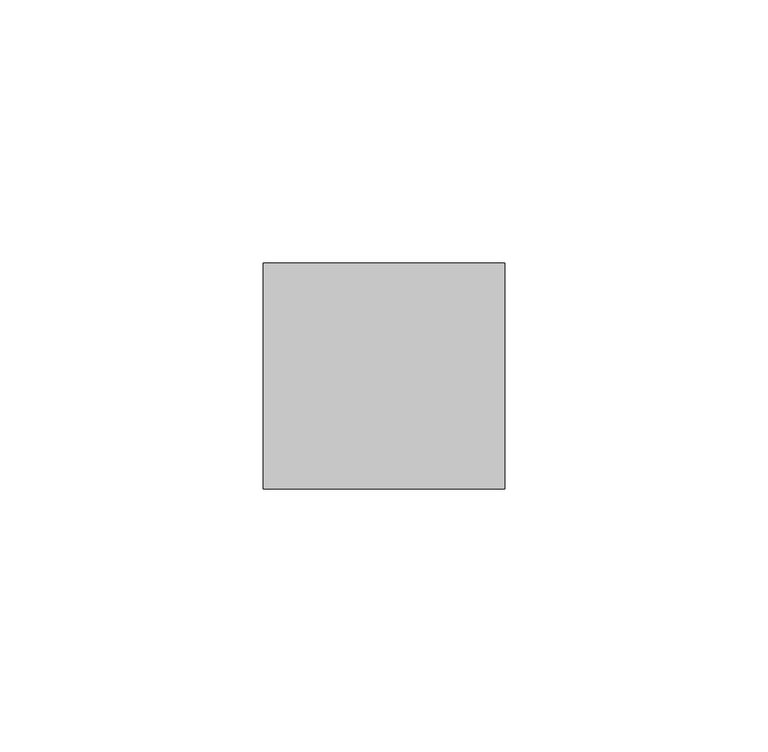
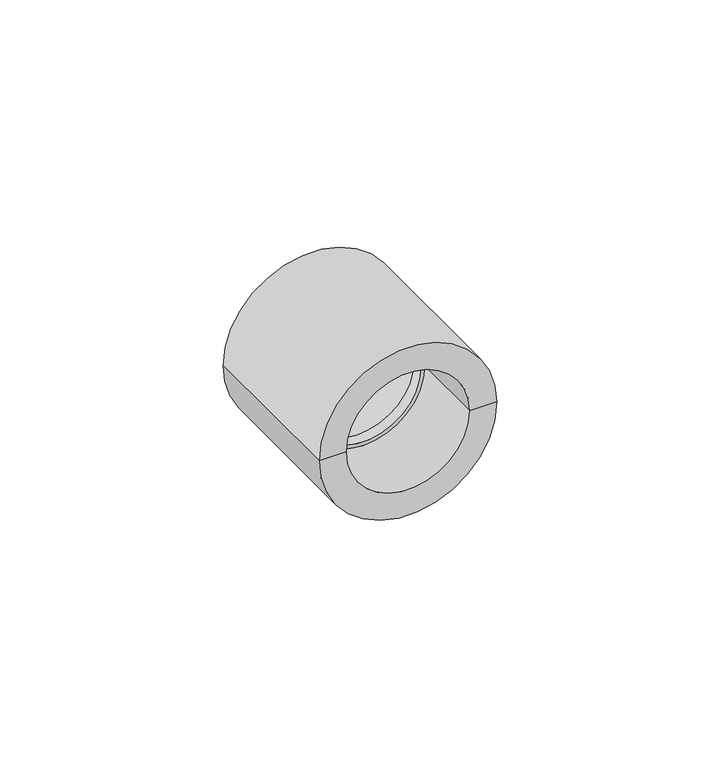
"""IFC4 building model written with IfcOpenShell, lengths in millimetres: pipe fitting geometry, NIRON RED termofusion manguito : Estándar."""

from ifc_helpers import new_model, si_unit, frame, origin, place, context, project, spatial, polyline, circle_curve, source, transform, mapped, element, save
from ifc_brep_helpers import plane_surface, cylinder_surface, revolved_surface, advanced_brep


def pipe_fitting_6d547501(model_context):
    return source(origin(), model_context, "Body", "AdvancedBrep", [
        advanced_brep(
        [(23.0, 43.0, 0.0), (-23.0, 43.0, 0.0), (-16.0, 43.0, 0.0), (16.0, 43.0, 0.0), (23.0, 0.0, 0.0), (-23.0, 0.0, 0.0), (16.0, 0.0, 0.0), (-16.0, 0.0, 0.0), (16.0, 20.0, 0.0), (-16.0, 20.0, 0.0), (15.0, 20.0, 0.0), (-15.0, 20.0, 0.0), (15.0, 23.0, 0.0), (-15.0, 23.0, 0.0), (16.0, 23.0, 0.0), (-16.0, 23.0, 0.0)],
        [
            (0, 1, circle_curve(frame((0.0, 43.0, 0.0), z_axis=(0.0, 1.0, 0.0), x_axis=(-1.0, 0.0, 0.0)), 23.0)),
            (1, 2),
            (2, 3, circle_curve(frame((0.0, 43.0, 0.0), z_axis=(0.0, -1.0, 0.0), x_axis=(-1.0, 0.0, 0.0)), 16.0)),
            (3, 0),
            (1, 0, circle_curve(frame((0.0, 43.0, 0.0), z_axis=(0.0, 1.0, 0.0), x_axis=(-1.0, 0.0, 0.0)), 23.0)),
            (3, 2, circle_curve(frame((0.0, 43.0, 0.0), z_axis=(0.0, -1.0, 0.0), x_axis=(-1.0, 0.0, 0.0)), 16.0)),
            (4, 5, circle_curve(frame((0.0, 0.0, 0.0), z_axis=(0.0, 1.0, 0.0), x_axis=(-1.0, 0.0, 0.0)), 23.0)),
            (5, 1),
            (0, 4),
            (5, 4, circle_curve(frame((0.0, 0.0, 0.0), z_axis=(0.0, 1.0, 0.0), x_axis=(-1.0, 0.0, 0.0)), 23.0)),
            (6, 7, circle_curve(frame((0.0, 0.0, 0.0), z_axis=(0.0, 1.0, 0.0), x_axis=(-1.0, 0.0, 0.0)), 16.0)),
            (7, 5),
            (4, 6),
            (7, 6, circle_curve(frame((0.0, 0.0, 0.0), z_axis=(0.0, 1.0, 0.0), x_axis=(-1.0, 0.0, 0.0)), 16.0)),
            (8, 9, circle_curve(frame((0.0, 20.0, 0.0), z_axis=(0.0, 1.0, 0.0), x_axis=(-1.0, 0.0, 0.0)), 16.0)),
            (9, 7),
            (6, 8),
            (9, 8, circle_curve(frame((0.0, 20.0, 0.0), z_axis=(0.0, 1.0, 0.0), x_axis=(-1.0, 0.0, 0.0)), 16.0)),
            (10, 11, circle_curve(frame((0.0, 20.0, 0.0), z_axis=(0.0, 1.0, 0.0), x_axis=(-1.0, 0.0, 0.0)), 15.0)),
            (11, 9),
            (8, 10),
            (11, 10, circle_curve(frame((0.0, 20.0, 0.0), z_axis=(0.0, 1.0, 0.0), x_axis=(-1.0, 0.0, 0.0)), 15.0)),
            (12, 13, circle_curve(frame((0.0, 23.0, 0.0), z_axis=(0.0, 1.0, 0.0), x_axis=(-1.0, 0.0, 0.0)), 15.0)),
            (13, 11),
            (10, 12),
            (13, 12, circle_curve(frame((0.0, 23.0, 0.0), z_axis=(0.0, 1.0, 0.0), x_axis=(-1.0, 0.0, 0.0)), 15.0)),
            (14, 15, circle_curve(frame((0.0, 23.0, 0.0), z_axis=(0.0, 1.0, 0.0), x_axis=(-1.0, 0.0, 0.0)), 16.0)),
            (15, 13),
            (12, 14),
            (15, 14, circle_curve(frame((0.0, 23.0, 0.0), z_axis=(0.0, 1.0, 0.0), x_axis=(-1.0, 0.0, 0.0)), 16.0)),
            (2, 15),
            (14, 3),
        ],
        [
            plane_surface(frame((0.0, 43.0, 0.0), z_axis=(0.0, 1.0, 0.0), x_axis=(-1.0, 0.0, 0.0))),
            cylinder_surface(frame((0.0, 68.0, 0.0), z_axis=(0.0, -1.0, 0.0), x_axis=(-1.0, 0.0, 0.0)), 23.0),
            plane_surface(frame((0.0, 0.0, 0.0), z_axis=(0.0, -1.0, 0.0), x_axis=(-1.0, 0.0, 0.0))),
            revolved_surface(polyline([(-16.0, 0.0, 0.0), (-16.0, 20.0, 0.0)]), (0.0, 68.0, 0.0), (0.0, -1.0, 0.0)),
            plane_surface(frame((0.0, 20.0, 0.0), z_axis=(0.0, -1.0, 0.0), x_axis=(-1.0, 0.0, 0.0))),
            revolved_surface(polyline([(-15.0, 20.0, 0.0), (-15.0, 23.0, 0.0)]), (0.0, 68.0, 0.0), (0.0, -1.0, 0.0)),
            plane_surface(frame((0.0, 23.0, 0.0), z_axis=(0.0, 1.0, 0.0), x_axis=(-1.0, 0.0, 0.0))),
            revolved_surface(polyline([(-16.0, 23.0, 0.0), (-16.0, 43.0, 0.0)]), (0.0, 68.0, 0.0), (0.0, -1.0, 0.0)),
        ],
        [
            (0, [[1, 2, 3, 4]]),
            (0, [[5, -4, 6, -2]]),
            (1, [[7, 8, -1, 9]]),
            (1, [[10, -9, -5, -8]]),
            (2, [[11, 12, -7, 13]]),
            (2, [[14, -13, -10, -12]]),
            (3, [[15, 16, -11, 17]]),
            (3, [[18, -17, -14, -16]]),
            (4, [[19, 20, -15, 21]]),
            (4, [[22, -21, -18, -20]]),
            (5, [[23, 24, -19, 25]]),
            (5, [[26, -25, -22, -24]]),
            (6, [[27, 28, -23, 29]]),
            (6, [[30, -29, -26, -28]]),
            (7, [[-3, 31, -27, 32]]),
            (7, [[-6, -32, -30, -31]]),
        ],
    ),
    ])


if __name__ == "__main__":
    model = new_model("IFC4")
    model_context = context("Model", 3, world=origin())
    ifc_project = project(units=[si_unit("LENGTHUNIT", "METRE", prefix="MILLI")], contexts=[model_context])
    site = spatial("IfcSite", under=ifc_project)
    building = spatial("IfcBuilding", under=site)
    placement = place(None, origin())
    pipe_fitting_shape = pipe_fitting_6d547501(model_context)
    element("IfcPipeFitting", 1, ObjectType="NIRON RED termofusion manguito : Estándar", at=placement, inside=building, context=model_context, shape_type="MappedRepresentation", body=[
        mapped(pipe_fitting_shape, transform((0.0, 0.0, 0.0), x_axis=(1.0, 0.0, 0.0), y_axis=(0.0, 1.0, 0.0), z_axis=(0.0, 0.0, 1.0))),
    ])
    save(model, "model.ifc")
